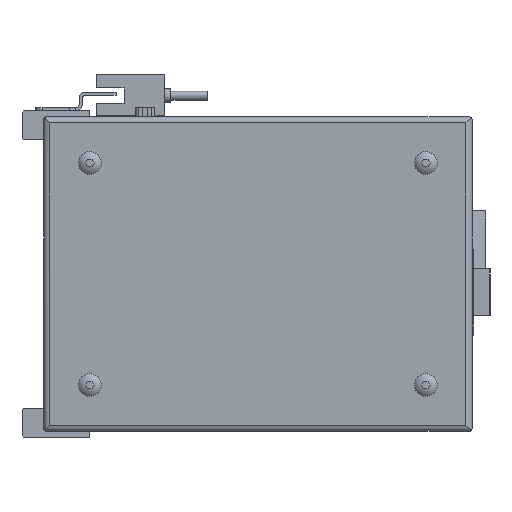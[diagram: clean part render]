
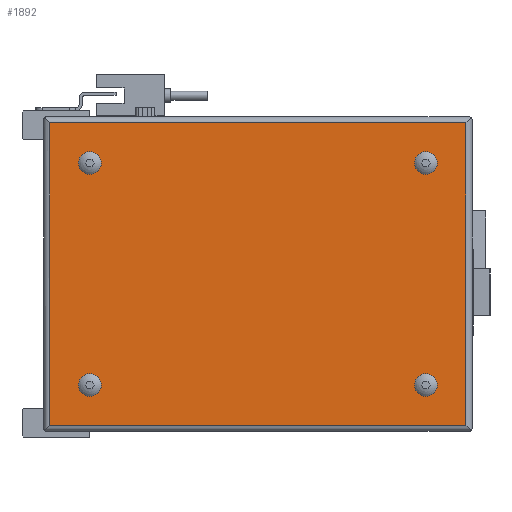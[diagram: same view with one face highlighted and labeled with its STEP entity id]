
A CAD part, left-side view. The second image highlights one B-rep face of the part: STEP entity #1892.
In plain terms, the highlighted planar face has unit normal (-1, 0, 0).
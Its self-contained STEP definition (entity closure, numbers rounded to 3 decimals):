
#1892 = ADVANCED_FACE( '', ( #4002, #4003, #4004, #4005, #4006 ), #4007, .F. );
#4002 = FACE_BOUND( '', #6325, .T. );
#4003 = FACE_BOUND( '', #6326, .T. );
#4004 = FACE_BOUND( '', #6327, .T. );
#4005 = FACE_BOUND( '', #6328, .T. );
#4006 = FACE_OUTER_BOUND( '', #6329, .T. );
#4007 = PLANE( '', #6330 );
#6325 = EDGE_LOOP( '', ( #11515 ) );
#6326 = EDGE_LOOP( '', ( #11516 ) );
#6327 = EDGE_LOOP( '', ( #11517 ) );
#6328 = EDGE_LOOP( '', ( #11518 ) );
#6329 = EDGE_LOOP( '', ( #11519, #11520, #11521, #11522 ) );
#6330 = AXIS2_PLACEMENT_3D( '', #11523, #11524, #11525 );
#11515 = ORIENTED_EDGE( '', *, *, #15527, .F. );
#11516 = ORIENTED_EDGE( '', *, *, #14207, .F. );
#11517 = ORIENTED_EDGE( '', *, *, #15528, .F. );
#11518 = ORIENTED_EDGE( '', *, *, #14616, .F. );
#11519 = ORIENTED_EDGE( '', *, *, #15529, .T. );
#11520 = ORIENTED_EDGE( '', *, *, #15487, .F. );
#11521 = ORIENTED_EDGE( '', *, *, #14491, .F. );
#11522 = ORIENTED_EDGE( '', *, *, #15474, .T. );
#11523 = CARTESIAN_POINT( '', ( -52., -75., 50. ) );
#11524 = DIRECTION( '', ( 1., 0., 0. ) );
#11525 = DIRECTION( '', ( 0., 0., -1. ) );
#14207 = EDGE_CURVE( '', #17313, #17313, #17314, .F. );
#14491 = EDGE_CURVE( '', #17763, #17764, #17765, .F. );
#14616 = EDGE_CURVE( '', #17955, #17955, #17956, .F. );
#15474 = EDGE_CURVE( '', #17763, #19149, #19151, .T. );
#15487 = EDGE_CURVE( '', #17764, #19167, #19168, .T. );
#15527 = EDGE_CURVE( '', #19213, #19213, #19214, .F. );
#15528 = EDGE_CURVE( '', #19215, #19215, #19216, .F. );
#15529 = EDGE_CURVE( '', #19149, #19167, #19217, .F. );
#17313 = VERTEX_POINT( '', #21689 );
#17314 = CIRCLE( '', #21690, 3.7 );
#17763 = VERTEX_POINT( '', #22439 );
#17764 = VERTEX_POINT( '', #22440 );
#17765 = LINE( '', #22441, #22442 );
#17955 = VERTEX_POINT( '', #22717 );
#17956 = CIRCLE( '', #22718, 3.7 );
#19149 = VERTEX_POINT( '', #24580 );
#19151 = LINE( '', #24582, #24583 );
#19167 = VERTEX_POINT( '', #24607 );
#19168 = LINE( '', #24608, #24609 );
#19213 = VERTEX_POINT( '', #24671 );
#19214 = CIRCLE( '', #24672, 3.7 );
#19215 = VERTEX_POINT( '', #24673 );
#19216 = CIRCLE( '', #24674, 3.7 );
#19217 = LINE( '', #24675, #24676 );
#21689 = CARTESIAN_POINT( '', ( -52., -61., -39.7 ) );
#21690 = AXIS2_PLACEMENT_3D( '', #26161, #26162, #26163 );
#22439 = CARTESIAN_POINT( '', ( -52., -74., -49. ) );
#22440 = CARTESIAN_POINT( '', ( -52., 61., -49. ) );
#22441 = CARTESIAN_POINT( '', ( -52., 139., -49. ) );
#22442 = VECTOR( '', #26479, 1000. );
#22717 = CARTESIAN_POINT( '', ( -52., 48., -39.7 ) );
#22718 = AXIS2_PLACEMENT_3D( '', #26628, #26629, #26630 );
#24580 = CARTESIAN_POINT( '', ( -52., -74., 49. ) );
#24582 = CARTESIAN_POINT( '', ( -52., -74., -102. ) );
#24583 = VECTOR( '', #27555, 1000. );
#24607 = CARTESIAN_POINT( '', ( -52., 61., 49. ) );
#24608 = CARTESIAN_POINT( '', ( -52., 61., -102. ) );
#24609 = VECTOR( '', #27567, 1000. );
#24671 = CARTESIAN_POINT( '', ( -52., -61., 32.3 ) );
#24672 = AXIS2_PLACEMENT_3D( '', #27595, #27596, #27597 );
#24673 = CARTESIAN_POINT( '', ( -52., 48., 32.3 ) );
#24674 = AXIS2_PLACEMENT_3D( '', #27598, #27599, #27600 );
#24675 = CARTESIAN_POINT( '', ( -52., 139., 49. ) );
#24676 = VECTOR( '', #27601, 1000. );
#26161 = CARTESIAN_POINT( '', ( -52., -61., -36. ) );
#26162 = DIRECTION( '', ( 1., 0., 0. ) );
#26163 = DIRECTION( '', ( 0., 0., -1. ) );
#26479 = DIRECTION( '', ( 0., -1., 0. ) );
#26628 = CARTESIAN_POINT( '', ( -52., 48., -36. ) );
#26629 = DIRECTION( '', ( 1., 0., 0. ) );
#26630 = DIRECTION( '', ( 0., 0., -1. ) );
#27555 = DIRECTION( '', ( 0., 0., 1. ) );
#27567 = DIRECTION( '', ( 0., 0., 1. ) );
#27595 = CARTESIAN_POINT( '', ( -52., -61., 36. ) );
#27596 = DIRECTION( '', ( 1., 0., 0. ) );
#27597 = DIRECTION( '', ( 0., 0., -1. ) );
#27598 = CARTESIAN_POINT( '', ( -52., 48., 36. ) );
#27599 = DIRECTION( '', ( 1., 0., 0. ) );
#27600 = DIRECTION( '', ( 0., 0., -1. ) );
#27601 = DIRECTION( '', ( 0., -1., 0. ) );
